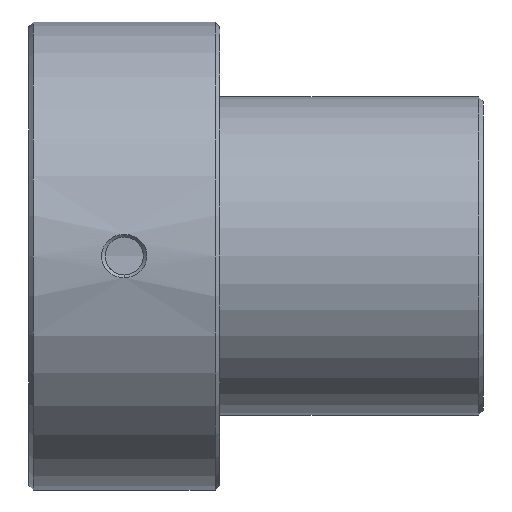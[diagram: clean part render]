
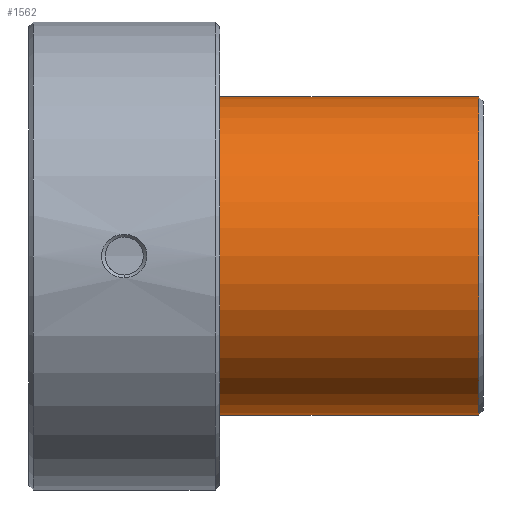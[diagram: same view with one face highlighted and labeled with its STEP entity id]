
A CAD part, front view. The second image highlights one B-rep face of the part: STEP entity #1562.
In plain terms, the highlighted cylindrical face has radius 35 mm (diameter 70 mm), a partial arc.
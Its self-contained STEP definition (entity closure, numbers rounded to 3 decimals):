
#868=CARTESIAN_POINT('Vertex',(42.,0.,-35.)) ;
#873=CARTESIAN_POINT('Axis2P3D Location',(42.,0.,0.)) ;
#877=CARTESIAN_POINT('Vertex',(42.,-35.,0.)) ;
#880=CARTESIAN_POINT('Axis2P3D Location',(42.,0.,0.)) ;
#884=CARTESIAN_POINT('Vertex',(42.,0.,35.)) ;
#1502=CARTESIAN_POINT('Line Origine',(100.,0.,35.)) ;
#1506=CARTESIAN_POINT('Vertex',(99.,0.,35.)) ;
#1520=CARTESIAN_POINT('Vertex',(99.,0.,-35.)) ;
#1523=CARTESIAN_POINT('Line Origine',(100.,0.,-35.)) ;
#1537=CARTESIAN_POINT('Axis2P3D Location',(100.,0.,0.)) ;
#1542=CARTESIAN_POINT('Axis2P3D Location',(99.,0.,0.)) ;
#1546=CARTESIAN_POINT('Vertex',(99.,-35.,0.)) ;
#1549=CARTESIAN_POINT('Axis2P3D Location',(99.,0.,0.)) ;
#874=DIRECTION('Axis2P3D Direction',(1.,0.,-0.)) ;
#881=DIRECTION('Axis2P3D Direction',(1.,0.,-0.)) ;
#1503=DIRECTION('Vector Direction',(-1.,0.,0.)) ;
#1524=DIRECTION('Vector Direction',(-1.,0.,0.)) ;
#1538=DIRECTION('Axis2P3D Direction',(-1.,-0.,-0.)) ;
#1539=DIRECTION('Axis2P3D XDirection',(0.,0.,-1.)) ;
#1543=DIRECTION('Axis2P3D Direction',(-1.,-0.,-0.)) ;
#1550=DIRECTION('Axis2P3D Direction',(-1.,-0.,-0.)) ;
#875=AXIS2_PLACEMENT_3D('Circle Axis2P3D',#873,#874,$) ;
#882=AXIS2_PLACEMENT_3D('Circle Axis2P3D',#880,#881,$) ;
#1540=AXIS2_PLACEMENT_3D('Cylinder Axis2P3D',#1537,#1538,#1539) ;
#1544=AXIS2_PLACEMENT_3D('Circle Axis2P3D',#1542,#1543,$) ;
#1551=AXIS2_PLACEMENT_3D('Circle Axis2P3D',#1549,#1550,$) ;
#1555=ORIENTED_EDGE('',*,*,#1527,.T.) ;
#1556=ORIENTED_EDGE('',*,*,#1548,.F.) ;
#1557=ORIENTED_EDGE('',*,*,#1553,.F.) ;
#1558=ORIENTED_EDGE('',*,*,#1508,.T.) ;
#1559=ORIENTED_EDGE('',*,*,#886,.T.) ;
#1560=ORIENTED_EDGE('',*,*,#879,.T.) ;
#1504=VECTOR('Line Direction',#1503,1.) ;
#1525=VECTOR('Line Direction',#1524,1.) ;
#1562=ADVANCED_FACE('346-50',(#1561),#1541,.T.) ;
#876=CIRCLE('generated circle',#875,35.) ;
#883=CIRCLE('generated circle',#882,35.) ;
#1545=CIRCLE('generated circle',#1544,35.) ;
#1552=CIRCLE('generated circle',#1551,35.) ;
#1541=CYLINDRICAL_SURFACE('generated cylinder',#1540,35.) ;
#879=EDGE_CURVE('',#878,#869,#876,.T.) ;
#886=EDGE_CURVE('',#885,#878,#883,.T.) ;
#1508=EDGE_CURVE('',#1507,#885,#1505,.T.) ;
#1527=EDGE_CURVE('',#869,#1521,#1526,.F.) ;
#1548=EDGE_CURVE('',#1547,#1521,#1545,.F.) ;
#1553=EDGE_CURVE('',#1507,#1547,#1552,.F.) ;
#1554=EDGE_LOOP('',(#1555,#1556,#1557,#1558,#1559,#1560)) ;
#1561=FACE_OUTER_BOUND('',#1554,.T.) ;
#1505=LINE('Line',#1502,#1504) ;
#1526=LINE('Line',#1523,#1525) ;
#869=VERTEX_POINT('',#868) ;
#878=VERTEX_POINT('',#877) ;
#885=VERTEX_POINT('',#884) ;
#1507=VERTEX_POINT('',#1506) ;
#1521=VERTEX_POINT('',#1520) ;
#1547=VERTEX_POINT('',#1546) ;
